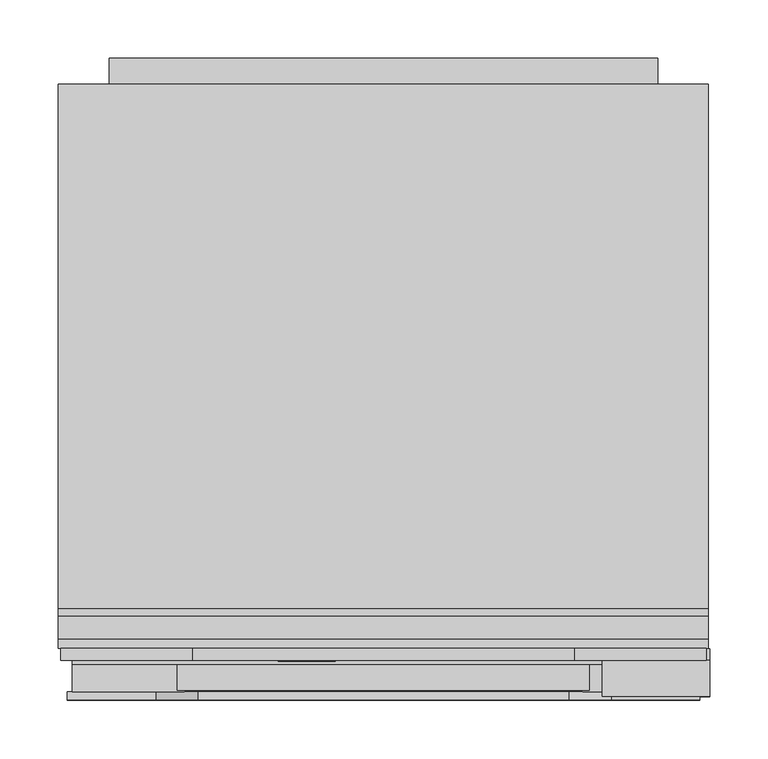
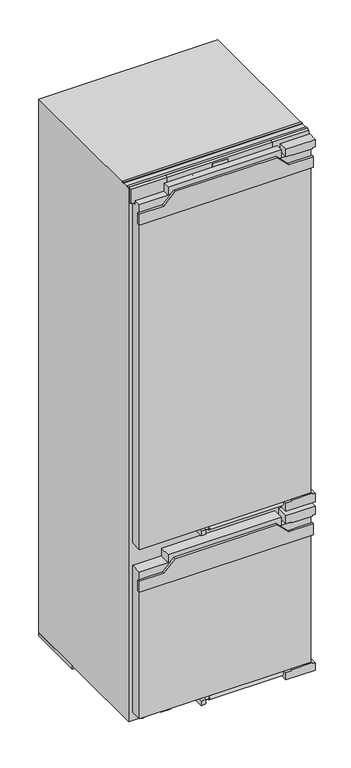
"""IFC4 building model written with IfcOpenShell, lengths in millimetres: proxy geometry, 11642650_EU1_KF7772B : 38777200_EU1_11642650_KF7772B."""

from ifc_helpers import new_model, si_unit, point, frame, frame_2d, origin, origin_with_axes, place, context, project, spatial, polyline, circle_curve, ellipse_curve, trimmed, segment, composite_curve, outline, extrude, faceted_brep, source, transform, mapped, element, save
from ifc_brep_helpers import plane_surface, cylinder_surface, revolved_surface, extruded_surface, advanced_brep


def specialty_equipment_3f4a5575(model_context):
    return source(origin(), model_context, "Body", "SolidModel", [
        advanced_brep(
        [(-46.64, 33.0, 1742.896), (-46.64, 33.0, 1743.704), (-41.288, 33.0, 1743.704), (-50.6, 33.0, 1743.704), (-48.4, 33.0, 1741.0), (-41.424, 33.0, 1742.896), (-43.84, 33.0, 1742.896), (-45.744, 33.0, 1742.0), (-46.64, 33.0, 1744.728), (-46.64, 33.0, 1745.6), (-45.272, 33.0, 1745.6), (-45.272, 33.0, 1744.728), (-46.64, 34.0, 1742.896), (-45.744, 34.0, 1742.0), (-43.84, 34.0, 1742.896), (-41.424, 34.0, 1742.896), (-48.4, 34.0, 1741.0), (-50.6, 34.0, 1743.704), (-41.288, 34.0, 1743.704), (-46.64, 34.0, 1743.704), (-46.64, 34.0, 1744.728), (-45.272, 34.0, 1744.728), (-45.272, 34.0, 1745.6), (-46.64, 34.0, 1745.6)],
        [
            (0, 1),
            (1, 2),
            (2, 3, ellipse_curve(frame((-45.944, 33.0, 1743.704), z_axis=(0.0, -1.0, 0.0), x_axis=(-1.0, 0.0, 0.0)), 4.656, 3.848)),
            (3, 4, circle_curve(frame((-47.5039564, 33.0, 1743.976), z_axis=(0.0, -1.0, 0.0), x_axis=(0.0, 0.0, -1.0)), 3.1079688)),
            (4, 5, circle_curve(frame((-46.0372064, 33.0, 1746.088), z_axis=(0.0, -1.0, 0.0), x_axis=(0.0, 0.0, -1.0)), 5.6098607)),
            (5, 6),
            (6, 7, circle_curve(frame((-45.3529412, 33.0, 1743.64), z_axis=(0.0, 1.0, 0.0), x_axis=(0.0, 0.0, -1.0)), 1.6859795)),
            (7, 0, circle_curve(frame((-45.744, 33.0, 1742.896), z_axis=(0.0, 1.0, 0.0), x_axis=(0.0, 0.0, -1.0)), 0.896)),
            (8, 9),
            (9, 10, circle_curve(frame((-45.956, 33.0, 1745.6), z_axis=(0.0, 1.0, 0.0), x_axis=(0.0, 0.0, -1.0)), 0.684)),
            (10, 11),
            (11, 8),
            (12, 13, circle_curve(frame((-45.744, 34.0, 1742.896), z_axis=(0.0, -1.0, 0.0), x_axis=(0.0, 0.0, -1.0)), 0.896)),
            (13, 14, circle_curve(frame((-45.3529412, 34.0, 1743.64), z_axis=(0.0, -1.0, 0.0), x_axis=(0.0, 0.0, -1.0)), 1.6859795)),
            (14, 15),
            (15, 16, circle_curve(frame((-46.0372064, 34.0, 1746.088), z_axis=(0.0, 1.0, 0.0), x_axis=(0.0, 0.0, -1.0)), 5.6098607)),
            (16, 17, circle_curve(frame((-47.5039564, 34.0, 1743.976), z_axis=(0.0, 1.0, 0.0), x_axis=(0.0, 0.0, -1.0)), 3.1079688)),
            (17, 18, ellipse_curve(frame((-45.944, 34.0, 1743.704), z_axis=(0.0, 1.0, 0.0), x_axis=(-1.0, 0.0, 0.0)), 4.656, 3.848)),
            (18, 19),
            (19, 12),
            (20, 21),
            (21, 22),
            (22, 23, circle_curve(frame((-45.956, 34.0, 1745.6), z_axis=(0.0, -1.0, 0.0), x_axis=(0.0, 0.0, -1.0)), 0.684)),
            (23, 20),
            (0, 12),
            (19, 1),
            (18, 2),
            (5, 15),
            (14, 6),
            (17, 3),
            (13, 7),
            (16, 4),
            (8, 20),
            (23, 9),
            (22, 10),
            (21, 11),
        ],
        [
            plane_surface(frame((-46.64, 33.0, 1743.704), z_axis=(0.0, -1.0, 0.0), x_axis=(0.0, 0.0, 1.0))),
            plane_surface(frame((-46.64, 34.0, 1743.704), z_axis=(0.0, 1.0, 0.0), x_axis=(0.0, 0.0, -1.0))),
            plane_surface(frame((-46.64, 33.0, 1742.896), z_axis=(1.0, 0.0, 0.0), x_axis=(0.0, 1.0, 0.0))),
            plane_surface(frame((-46.64, 33.0, 1743.704), z_axis=(0.0, 0.0, -1.0), x_axis=(0.0, 1.0, 0.0))),
            plane_surface(frame((-41.424, 33.0, 1742.896), z_axis=(0.0, 0.0, 1.0), x_axis=(0.0, 1.0, 0.0))),
            extruded_surface(trimmed(ellipse_curve(frame((-45.944, 35.0, 1743.704), z_axis=(0.0, -1.0, 0.0), x_axis=(-1.0, 0.0, 0.0)), 4.656, 3.848), [point((-41.288, 35.0, 1743.704))], [point((-50.6, 35.0, 1743.704))], True, "CARTESIAN"), (0.0, -1.0, 0.0), 1.0),
            revolved_surface(polyline([(-45.3529412, 34.0, 1741.9540205), (-45.3529412, 33.0, 1741.9540205)]), (-45.3529412, 34.0, 1743.64), (0.0, 1.0, 0.0)),
            revolved_surface(polyline([(-45.744, 34.0, 1742.0), (-45.744, 33.0, 1742.0)]), (-45.744, 34.0, 1742.896), (0.0, 1.0, 0.0)),
            cylinder_surface(frame((-47.5039564, 34.0, 1743.976), z_axis=(0.0, -1.0, 0.0), x_axis=(0.0, 0.0, -1.0)), 3.1079688),
            cylinder_surface(frame((-46.0372064, 34.0, 1746.088), z_axis=(0.0, -1.0, 0.0), x_axis=(0.0, 0.0, -1.0)), 5.6098607),
            plane_surface(frame((-46.64, 33.0, 1744.728), z_axis=(1.0, 0.0, 0.0), x_axis=(0.0, 1.0, 0.0))),
            revolved_surface(polyline([(-45.956, 34.0, 1744.916), (-45.956, 33.0, 1744.916)]), (-45.956, 34.0, 1745.6), (0.0, 1.0, 0.0)),
            plane_surface(frame((-45.272, 33.0, 1745.6), z_axis=(-1.0, 0.0, 0.0), x_axis=(0.0, 1.0, 0.0))),
            plane_surface(frame((-45.272, 33.0, 1744.728), z_axis=(0.0, 0.0, 1.0), x_axis=(0.0, 1.0, 0.0))),
        ],
        [
            (0, [[1, 2, 3, 4, 5, 6, 7, 8], [9, 10, 11, 12]]),
            (1, [[13, 14, 15, 16, 17, 18, 19, 20], [21, 22, 23, 24]]),
            (2, [[-1, 25, -20, 26]]),
            (3, [[-2, -26, -19, 27]]),
            (4, [[-6, 28, -15, 29]]),
            (5, [[-3, -27, -18, 30]]),
            (6, [[-7, -29, -14, 31]]),
            (7, [[-8, -31, -13, -25]]),
            (8, [[-4, -30, -17, 32]]),
            (9, [[-5, -32, -16, -28]]),
            (10, [[-9, 33, -24, 34]]),
            (11, [[-10, -34, -23, 35]]),
            (12, [[-11, -35, -22, 36]]),
            (13, [[-12, -36, -21, -33]]),
        ],
    ),
        advanced_brep(
        [(-63.336, 33.0, 1742.896), (-63.336, 33.0, 1743.704), (-57.984, 33.0, 1743.704), (-67.296, 33.0, 1743.704), (-65.096, 33.0, 1741.0), (-58.12, 33.0, 1742.896), (-60.536, 33.0, 1742.896), (-62.44, 33.0, 1742.0), (-63.336, 33.0, 1744.728), (-63.336, 33.0, 1745.6), (-61.968, 33.0, 1745.6), (-61.968, 33.0, 1744.728), (-63.336, 34.0, 1742.896), (-62.44, 34.0, 1742.0), (-60.536, 34.0, 1742.896), (-58.12, 34.0, 1742.896), (-65.096, 34.0, 1741.0), (-67.296, 34.0, 1743.704), (-57.984, 34.0, 1743.704), (-63.336, 34.0, 1743.704), (-63.336, 34.0, 1744.728), (-61.968, 34.0, 1744.728), (-61.968, 34.0, 1745.6), (-63.336, 34.0, 1745.6)],
        [
            (0, 1),
            (1, 2),
            (2, 3, ellipse_curve(frame((-62.64, 33.0, 1743.704), z_axis=(0.0, -1.0, 0.0), x_axis=(-1.0, 0.0, 0.0)), 4.656, 3.848)),
            (3, 4, circle_curve(frame((-64.1999564, 33.0, 1743.976), z_axis=(0.0, -1.0, 0.0), x_axis=(0.0, 0.0, -1.0)), 3.1079688)),
            (4, 5, circle_curve(frame((-62.7332064, 33.0, 1746.088), z_axis=(0.0, -1.0, 0.0), x_axis=(0.0, 0.0, -1.0)), 5.6098607)),
            (5, 6),
            (6, 7, circle_curve(frame((-62.0489412, 33.0, 1743.64), z_axis=(0.0, 1.0, 0.0), x_axis=(0.0, 0.0, -1.0)), 1.6859795)),
            (7, 0, circle_curve(frame((-62.44, 33.0, 1742.896), z_axis=(0.0, 1.0, 0.0), x_axis=(0.0, 0.0, -1.0)), 0.896)),
            (8, 9),
            (9, 10, circle_curve(frame((-62.652, 33.0, 1745.6), z_axis=(0.0, 1.0, 0.0), x_axis=(0.0, 0.0, -1.0)), 0.684)),
            (10, 11),
            (11, 8),
            (12, 13, circle_curve(frame((-62.44, 34.0, 1742.896), z_axis=(0.0, -1.0, 0.0), x_axis=(0.0, 0.0, -1.0)), 0.896)),
            (13, 14, circle_curve(frame((-62.0489412, 34.0, 1743.64), z_axis=(0.0, -1.0, 0.0), x_axis=(0.0, 0.0, -1.0)), 1.6859795)),
            (14, 15),
            (15, 16, circle_curve(frame((-62.7332064, 34.0, 1746.088), z_axis=(0.0, 1.0, 0.0), x_axis=(0.0, 0.0, -1.0)), 5.6098607)),
            (16, 17, circle_curve(frame((-64.1999564, 34.0, 1743.976), z_axis=(0.0, 1.0, 0.0), x_axis=(0.0, 0.0, -1.0)), 3.1079688)),
            (17, 18, ellipse_curve(frame((-62.64, 34.0, 1743.704), z_axis=(0.0, 1.0, 0.0), x_axis=(-1.0, 0.0, 0.0)), 4.656, 3.848)),
            (18, 19),
            (19, 12),
            (20, 21),
            (21, 22),
            (22, 23, circle_curve(frame((-62.652, 34.0, 1745.6), z_axis=(0.0, -1.0, 0.0), x_axis=(0.0, 0.0, -1.0)), 0.684)),
            (23, 20),
            (0, 12),
            (19, 1),
            (18, 2),
            (5, 15),
            (14, 6),
            (17, 3),
            (13, 7),
            (16, 4),
            (8, 20),
            (23, 9),
            (22, 10),
            (21, 11),
        ],
        [
            plane_surface(frame((-63.336, 33.0, 1743.704), z_axis=(0.0, -1.0, 0.0), x_axis=(0.0, 0.0, 1.0))),
            plane_surface(frame((-63.336, 34.0, 1743.704), z_axis=(0.0, 1.0, 0.0), x_axis=(0.0, 0.0, -1.0))),
            plane_surface(frame((-63.336, 33.0, 1742.896), z_axis=(1.0, 0.0, 0.0), x_axis=(0.0, 1.0, 0.0))),
            plane_surface(frame((-63.336, 33.0, 1743.704), z_axis=(0.0, 0.0, -1.0), x_axis=(0.0, 1.0, 0.0))),
            plane_surface(frame((-58.12, 33.0, 1742.896), z_axis=(0.0, 0.0, 1.0), x_axis=(0.0, 1.0, 0.0))),
            extruded_surface(trimmed(ellipse_curve(frame((-62.64, 35.0, 1743.704), z_axis=(0.0, -1.0, 0.0), x_axis=(-1.0, 0.0, 0.0)), 4.656, 3.848), [point((-57.984, 35.0, 1743.704))], [point((-67.296, 35.0, 1743.704))], True, "CARTESIAN"), (0.0, -1.0, 0.0), 1.0),
            revolved_surface(polyline([(-62.0489412, 34.0, 1741.9540205), (-62.0489412, 33.0, 1741.9540205)]), (-62.0489412, 34.0, 1743.64), (0.0, 1.0, 0.0)),
            revolved_surface(polyline([(-62.44, 34.0, 1742.0), (-62.44, 33.0, 1742.0)]), (-62.44, 34.0, 1742.896), (0.0, 1.0, 0.0)),
            cylinder_surface(frame((-64.1999564, 34.0, 1743.976), z_axis=(0.0, -1.0, 0.0), x_axis=(0.0, 0.0, -1.0)), 3.1079688),
            cylinder_surface(frame((-62.7332064, 34.0, 1746.088), z_axis=(0.0, -1.0, 0.0), x_axis=(0.0, 0.0, -1.0)), 5.6098607),
            plane_surface(frame((-63.336, 33.0, 1744.728), z_axis=(1.0, 0.0, 0.0), x_axis=(0.0, 1.0, 0.0))),
            revolved_surface(polyline([(-62.652, 34.0, 1744.916), (-62.652, 33.0, 1744.916)]), (-62.652, 34.0, 1745.6), (0.0, 1.0, 0.0)),
            plane_surface(frame((-61.968, 33.0, 1745.6), z_axis=(-1.0, 0.0, 0.0), x_axis=(0.0, 1.0, 0.0))),
            plane_surface(frame((-61.968, 33.0, 1744.728), z_axis=(0.0, 0.0, 1.0), x_axis=(0.0, 1.0, 0.0))),
        ],
        [
            (0, [[1, 2, 3, 4, 5, 6, 7, 8], [9, 10, 11, 12]]),
            (1, [[13, 14, 15, 16, 17, 18, 19, 20], [21, 22, 23, 24]]),
            (2, [[-1, 25, -20, 26]]),
            (3, [[-2, -26, -19, 27]]),
            (4, [[-6, 28, -15, 29]]),
            (5, [[-3, -27, -18, 30]]),
            (6, [[-7, -29, -14, 31]]),
            (7, [[-8, -31, -13, -25]]),
            (8, [[-4, -30, -17, 32]]),
            (9, [[-5, -32, -16, -28]]),
            (10, [[-9, 33, -24, 34]]),
            (11, [[-10, -34, -23, 35]]),
            (12, [[-11, -35, -22, 36]]),
            (13, [[-12, -36, -21, -33]]),
        ],
    ),
        extrude(outline(polyline([(1748.528, -72.08), (1747.232, -71.472), (1748.496, -68.76), (1749.792, -69.36), (1748.528, -72.08)])), frame((0.0, 33.0, 0.0), z_axis=(0.0, 1.0, 0.0), x_axis=(0.0, 0.0, 1.0)), (0.0, 0.0, 1.0), 1.0),
        extrude(outline(polyline([(1747.056, -74.056), (1745.624, -74.056), (1745.624, -73.104), (1742.344, -73.104), (1742.344, -74.056), (1741.0, -74.056), (1741.0, -67.744), (1742.344, -67.744), (1742.344, -68.672), (1747.056, -68.672), (1747.056, -74.056)])), frame((0.0, 33.0, 0.0), z_axis=(0.0, 1.0, 0.0), x_axis=(0.0, 0.0, 1.0)), (0.0, 0.0, 1.0), 1.0),
        extrude(outline(polyline([(1747.696, -57.536), (1747.696, -56.576), (1742.344, -56.576), (1742.344, -57.536), (1741.0, -57.536), (1741.0, -51.048), (1742.344, -51.048), (1742.344, -52.032), (1749.0, -52.032), (1749.0, -57.536), (1747.696, -57.536)])), frame((0.0, 33.0, 0.0), z_axis=(0.0, 1.0, 0.0), x_axis=(0.0, 0.0, 1.0)), (0.0, 0.0, 1.0), 1.0),
        extrude(outline(polyline([(1747.696, -90.0), (1747.696, -89.032), (1742.344, -89.032), (1742.344, -90.0), (1741.0, -90.0), (1741.0, -86.48), (1742.344, -86.48), (1742.344, -87.44), (1745.7471247, -87.44), (1741.0, -83.864), (1745.8152223, -80.272), (1742.344, -80.272), (1742.344, -81.256), (1741.0, -81.256), (1741.0, -74.872), (1742.344, -74.872), (1742.344, -75.888), (1747.696, -75.888), (1747.696, -74.872), (1749.0, -74.872), (1749.0, -79.744), (1746.0, -82.08), (1749.0, -84.424), (1749.0, -90.0), (1747.696, -90.0)])), frame((0.0, 33.0, 0.0), z_axis=(0.0, 1.0, 0.0), x_axis=(0.0, 0.0, 1.0)), (0.0, 0.0, 1.0), 1.0),
        extrude(outline(polyline([(461.0, 271.0), (497.0, 271.0), (497.0, 195.0), (533.0, 159.0), (533.0, -159.0), (497.0, -195.0), (497.0, -271.0), (461.0, -271.0), (461.0, 271.0)])), frame((0.0, 0.0, 0.0), z_axis=(0.0, 1.0, 0.0), x_axis=(0.0, 0.0, 1.0)), (0.0, 0.0, 1.0), 7.0),
        extrude(outline(polyline([(1670.0, 271.0), (1706.0, 271.0), (1706.0, 195.0), (1742.0, 159.0), (1742.0, -159.0), (1706.0, -195.0), (1706.0, -271.0), (1670.0, -271.0), (1670.0, 271.0)])), frame((0.0, 0.0, 0.0), z_axis=(0.0, 1.0, 0.0), x_axis=(0.0, 0.0, 1.0)), (0.0, 0.0, 1.0), 7.0),
        extrude(outline(composite_curve([segment(trimmed(circle_curve(frame_2d((-65.5, 25.0)), 6.5), [point((-72.0, 25.0))], [point((-59.0, 25.0))], False, "CARTESIAN"), True, "CONTINUOUS"), segment(trimmed(circle_curve(frame_2d((-65.5, 25.0)), 6.5), [point((-59.0, 25.0))], [point((-72.0, 25.0))], False, "CARTESIAN"), True, "CONTINUOUS")], self_intersect=False)), frame((0.0, 0.0, 588.0), z_axis=(0.0, 0.0, 1.0), x_axis=(1.0, 0.0, 0.0)), (0.0, 0.0, 1.0), 8.0),
        extrude(outline(polyline([(-74.0, 42.0), (-59.0, 42.0), (-59.0, 8.0), (-74.0, 8.0), (-74.0, 42.0)])), frame((0.0, 0.0, 573.3963013), z_axis=(0.0, 0.0, 1.0), x_axis=(1.0, 0.0, 0.0)), (0.0, 0.0, 1.0), 14.6036987),
        extrude(outline(composite_curve([segment(trimmed(circle_curve(frame_2d((-65.5, 25.0)), 6.5), [point((-72.0, 25.0))], [point((-59.0, 25.0))], False, "CARTESIAN"), True, "CONTINUOUS"), segment(trimmed(circle_curve(frame_2d((-65.5, 25.0)), 6.5), [point((-59.0, 25.0))], [point((-72.0, 25.0))], False, "CARTESIAN"), True, "CONTINUOUS")], self_intersect=False)), frame((0.0, 0.0, 29.0), z_axis=(0.0, 0.0, 1.0), x_axis=(1.0, 0.0, 0.0)), (0.0, 0.0, 1.0), 9.0),
        extrude(outline(polyline([(-74.0, 42.0), (-59.0, 42.0), (-59.0, 8.0), (-74.0, 8.0), (-74.0, 42.0)])), frame((0.0, 0.0, 14.3963013), z_axis=(0.0, 0.0, 1.0), x_axis=(1.0, 0.0, 0.0)), (0.0, 0.0, 1.0), 14.6036987),
        extrude(outline(polyline([(592.0, 205.5), (592.0, 187.5), (565.0, 187.5), (565.0, 279.5), (592.0, 279.5), (592.0, 269.5), (596.0, 269.5), (596.0, 205.5), (592.0, 205.5)])), frame((0.0, 3.0, 0.0), z_axis=(0.0, 1.0, 0.0), x_axis=(0.0, 0.0, 1.0)), (0.0, 0.0, 1.0), 41.0),
        extrude(outline(polyline([(176.5, 8.0), (-176.5, 8.0), (-176.5, 30.0), (176.5, 30.0), (176.5, 8.0)])), frame((0.0, 0.0, 1731.0), z_axis=(0.0, 0.0, 1.0), x_axis=(1.0, 0.0, 0.0)), (0.0, 0.0, 1.0), 25.0),
        extrude(outline(polyline([(7.0, 596.0), (7.0, 1731.0), (30.0, 1731.0), (30.0, 1715.0), (44.0, 1715.0), (44.0, 596.0), (7.0, 596.0)])), frame((-266.5, 0.0, 0.0), z_axis=(1.0, 0.0, 0.0), x_axis=(0.0, 1.0, 0.0)), (0.0, 0.0, 1.0), 533.0),
        extrude(outline(polyline([(-176.5, 44.0), (176.5, 44.0), (176.5, 8.0), (-176.5, 8.0), (-176.5, 44.0)])), frame((0.0, 0.0, 521.0), z_axis=(0.0, 0.0, 1.0), x_axis=(1.0, 0.0, 0.0)), (0.0, 0.0, 1.0), 25.0),
        extrude(outline(polyline([(550.0, 279.5), (550.0, 187.5), (524.0, 187.5), (524.0, 205.5), (521.0, 205.5), (521.0, 269.5), (524.0, 269.5), (524.0, 279.5), (550.0, 279.5)])), frame((0.0, 3.0, 0.0), z_axis=(0.0, 1.0, 0.0), x_axis=(0.0, 0.0, 1.0)), (0.0, 0.0, 1.0), 41.0),
        extrude(outline(polyline([(34.0, 205.5), (34.0, 187.5), (10.0, 187.5), (10.0, 279.5), (34.0, 279.5), (34.0, 269.5), (38.0, 269.5), (38.0, 205.5), (34.0, 205.5)])), frame((0.0, 3.0, 0.0), z_axis=(0.0, 1.0, 0.0), x_axis=(0.0, 0.0, 1.0)), (0.0, 0.0, 1.0), 41.0),
        extrude(outline(polyline([(1733.0, 269.5), (1733.0, 279.5), (1757.0, 279.5), (1757.0, 187.5), (1733.0, 187.5), (1733.0, 205.5), (1731.0, 205.5), (1731.0, 269.5), (1733.0, 269.5)])), frame((0.0, 3.0, 0.0), z_axis=(0.0, 1.0, 0.0), x_axis=(0.0, 0.0, 1.0)), (0.0, 0.0, 1.0), 31.0),
        extrude(outline(polyline([(-266.5, 44.0), (266.5, 44.0), (266.5, 7.0), (-266.5, 7.0), (-266.5, 44.0)])), frame((0.0, 0.0, 38.0), z_axis=(0.0, 0.0, 1.0), x_axis=(1.0, 0.0, 0.0)), (0.0, 0.0, 1.0), 483.0),
        extrude(outline(composite_curve([segment(trimmed(circle_curve(frame_2d((25.0, 582.0)), 6.0), [point((25.0, 576.0))], [point((25.0, 588.0))], False, "CARTESIAN"), True, "CONTINUOUS"), segment(trimmed(circle_curve(frame_2d((25.0, 582.0)), 6.0), [point((25.0, 588.0))], [point((25.0, 576.0))], False, "CARTESIAN"), True, "CONTINUOUS")], self_intersect=False)), frame((-59.0, 0.0, 0.0), z_axis=(1.0, 0.0, 0.0), x_axis=(0.0, 1.0, 0.0)), (0.0, 0.0, 1.0), 16.0),
        extrude(outline(composite_curve([segment(trimmed(circle_curve(frame_2d((25.0, 582.0)), 9.0), [point((25.0, 573.0))], [point((25.0, 591.0))], False, "CARTESIAN"), True, "CONTINUOUS"), segment(trimmed(circle_curve(frame_2d((25.0, 582.0)), 9.0), [point((25.0, 591.0))], [point((25.0, 573.0))], False, "CARTESIAN"), True, "CONTINUOUS")], self_intersect=False)), frame((-43.0, 0.0, 0.0), z_axis=(1.0, 0.0, 0.0), x_axis=(0.0, 1.0, 0.0)), (0.0, 0.0, 1.0), 230.5),
        extrude(outline(composite_curve([segment(trimmed(circle_curve(frame_2d((25.0, 23.0)), 9.0), [point((25.0, 14.0))], [point((25.0, 32.0))], False, "CARTESIAN"), True, "CONTINUOUS"), segment(trimmed(circle_curve(frame_2d((25.0, 23.0)), 9.0), [point((25.0, 32.0))], [point((25.0, 14.0))], False, "CARTESIAN"), True, "CONTINUOUS")], self_intersect=False)), frame((-43.0, 0.0, 0.0), z_axis=(1.0, 0.0, 0.0), x_axis=(0.0, 1.0, 0.0)), (0.0, 0.0, 1.0), 230.5),
        extrude(outline(composite_curve([segment(trimmed(circle_curve(frame_2d((25.0, 23.0)), 6.0), [point((25.0, 17.0))], [point((25.0, 29.0))], False, "CARTESIAN"), True, "CONTINUOUS"), segment(trimmed(circle_curve(frame_2d((25.0, 23.0)), 6.0), [point((25.0, 29.0))], [point((25.0, 17.0))], False, "CARTESIAN"), True, "CONTINUOUS")], self_intersect=False)), frame((-59.0, 0.0, 0.0), z_axis=(1.0, 0.0, 0.0), x_axis=(0.0, 1.0, 0.0)), (0.0, 0.0, 1.0), 16.0),
        faceted_brep([(163.5, 34.0, 1770.0), (-163.5, 34.0, 1770.0), (-163.5, 34.0, 1721.0), (163.5, 34.0, 1721.0), (24.5, 34.0, 1765.0), (24.5, 34.0, 1727.0), (-24.5, 34.0, 1727.0), (-24.5, 34.0, 1765.0), (163.5, 44.0, 1770.0), (163.5, 44.0, 1721.0), (-163.5, 44.0, 1721.0), (-163.5, 44.0, 1770.0), (24.5, 35.0, 1765.0), (-24.5, 35.0, 1765.0), (-24.5, 35.0, 1727.0), (24.5, 35.0, 1727.0)], [[[0, 1, 2, 3], [4, 5, 6, 7]], [[8, 9, 10, 11]], [[0, 3, 9, 8]], [[3, 2, 10, 9]], [[2, 1, 11, 10]], [[1, 0, 8, 11]], [[12, 13, 14, 15]], [[12, 15, 5, 4]], [[15, 14, 6, 5]], [[14, 13, 7, 6]], [[13, 12, 4, 7]]]),
        extrude(outline(polyline([(163.5, 44.0), (276.5, 44.0), (276.5, 34.0), (163.5, 34.0), (163.5, 44.0)])), frame((0.0, 0.0, 1721.0), z_axis=(0.0, 0.0, 1.0), x_axis=(1.0, 0.0, 0.0)), (0.0, 0.0, 1.0), 49.0),
        extrude(outline(polyline([(-276.5, 44.0), (-163.5, 44.0), (-163.5, 34.0), (-276.5, 34.0), (-276.5, 44.0)])), frame((0.0, 0.0, 1721.0), z_axis=(0.0, 0.0, 1.0), x_axis=(1.0, 0.0, 0.0)), (0.0, 0.0, 1.0), 49.0),
        extrude(outline(polyline([(-24.5, 35.0), (24.5, 35.0), (24.5, 34.0), (-24.5, 34.0), (-24.5, 35.0)])), frame((0.0, 0.0, 1727.0), z_axis=(0.0, 0.0, 1.0), x_axis=(1.0, 0.0, 0.0)), (0.0, 0.0, 1.0), 38.0),
        extrude(outline(polyline([(1647.0, -235.0), (27.0, -235.0), (27.0, 235.0), (130.0, 235.0), (130.0, 180.0), (160.0, 180.0), (160.0, 235.0), (1647.0, 235.0), (1647.0, -235.0)])), frame((0.0, 528.0, 0.0), z_axis=(0.0, 1.0, 0.0), x_axis=(0.0, 0.0, 1.0)), (0.0, 0.0, 1.0), 22.0),
        extrude(outline(polyline([(-144.929185, 52.0), (-174.0, 52.0), (-194.6983363, 348.0), (-165.6275213, 348.0), (-144.929185, 52.0)])), origin_with_axes(), (0.0, 0.0, 1.0), 10.0),
        extrude(outline(polyline([(144.929185, 52.0), (165.6275213, 348.0), (194.6983363, 348.0), (174.0, 52.0), (144.929185, 52.0)])), origin_with_axes(), (0.0, 0.0, 1.0), 10.0),
        extrude(outline(polyline([(541.4384039, 149.874164), (548.6647626, 149.874164), (548.6647626, 139.824714), (541.2826236, 139.824714), (541.2826236, 141.0836119), (547.4056247, 141.0836119), (547.4056247, 144.3750411), (541.7614845, 144.3750411), (541.7614845, 145.6249589), (547.4056247, 145.6249589), (547.4056247, 148.6148402), (541.4384039, 148.6148402), (541.4384039, 149.874164)])), frame((193.5, 0.0, 0.0), z_axis=(1.0, 0.0, 0.0), x_axis=(0.0, 1.0, 0.0)), (0.0, 0.0, 1.0), 1.0),
        extrude(outline(polyline([(538.1383052, 149.8716162), (539.399354, 149.8716162), (539.399354, 139.824714), (533.1225656, 139.824714), (533.1225656, 141.0927041), (538.1383052, 141.0927041), (538.1383052, 149.8716162)])), frame((193.5, 0.0, 0.0), z_axis=(1.0, 0.0, 0.0), x_axis=(0.0, 1.0, 0.0)), (0.0, 0.0, 1.0), 1.0),
        advanced_brep(
        [(232.0, 528.0, 145.0), (217.0, 528.0, 145.0), (232.0, 549.5, 145.0), (217.0, 534.5, 145.0), (194.5, 549.5, 145.0), (194.5, 534.5, 145.0)],
        [
            (0, 1, circle_curve(frame((224.5, 528.0, 145.0), z_axis=(0.0, -1.0, 0.0), x_axis=(-1.0, 0.0, 0.0)), 7.5)),
            (1, 0, circle_curve(frame((224.5, 528.0, 145.0), z_axis=(0.0, -1.0, 0.0), x_axis=(-1.0, 0.0, 0.0)), 7.5)),
            (0, 2),
            (2, 3, ellipse_curve(frame((224.5, 542.0, 145.0), z_axis=(0.7071067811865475, -0.7071067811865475, 0.0), x_axis=(-0.7071067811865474, -0.7071067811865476, 0.0)), 10.6066017, 7.5)),
            (3, 1),
            (3, 2, ellipse_curve(frame((224.5, 542.0, 145.0), z_axis=(0.7071067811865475, -0.7071067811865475, 0.0), x_axis=(-0.7071067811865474, -0.7071067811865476, 0.0)), 10.6066017, 7.5)),
            (4, 5, circle_curve(frame((194.5, 542.0, 145.0), z_axis=(-1.0, 0.0, 0.0), x_axis=(0.0, -1.0, 0.0)), 7.5)),
            (5, 4, circle_curve(frame((194.5, 542.0, 145.0), z_axis=(-1.0, 0.0, 0.0), x_axis=(0.0, -1.0, 0.0)), 7.5)),
            (2, 4),
            (5, 3),
        ],
        [
            plane_surface(frame((224.5, 528.0, 145.0), z_axis=(0.0, -1.0, 0.0), x_axis=(0.0, 0.0, 1.0))),
            cylinder_surface(frame((224.5, 528.0, 145.0), z_axis=(0.0, -1.0, 0.0), x_axis=(-1.0, 0.0, 0.0)), 7.5),
            plane_surface(frame((194.5, 542.0, 145.0), z_axis=(-1.0, 0.0, 0.0), x_axis=(0.0, 0.0, 1.0))),
            cylinder_surface(frame((224.5, 542.0, 145.0), z_axis=(1.0, 0.0, 0.0), x_axis=(0.0, -1.0, 0.0)), 7.5),
        ],
        [
            (0, [[1, 2]]),
            (1, [[-1, 3, 4, 5]]),
            (1, [[-2, -5, 6, -3]]),
            (2, [[7, 8]]),
            (3, [[-4, 9, -8, 10]]),
            (3, [[-6, -10, -7, -9]]),
        ],
    ),
        extrude(outline(polyline([(-34.0, 44.0), (34.0, 44.0), (34.0, 35.0), (-34.0, 35.0), (-34.0, 44.0)])), frame((0.0, 0.0, 13.0), z_axis=(0.0, 0.0, 1.0), x_axis=(1.0, 0.0, 0.0)), (0.0, 0.0, 1.0), 19.0),
        extrude(outline(polyline([(278.5, 52.0), (278.5, 44.0), (-278.5, 44.0), (-278.5, 52.0), (278.5, 52.0)])), frame((0.0, 0.0, 1767.0), z_axis=(0.0, 0.0, 1.0), x_axis=(1.0, 0.0, 0.0)), (0.0, 0.0, 1.0), 3.0),
        extrude(outline(polyline([(278.5, 78.0), (278.5, 72.0), (-278.5, 72.0), (-278.5, 78.0), (278.5, 78.0)])), frame((0.0, 0.0, 1767.0), z_axis=(0.0, 0.0, 1.0), x_axis=(1.0, 0.0, 0.0)), (0.0, 0.0, 1.0), 3.0),
        extrude(outline(polyline([(-242.5, 44.0), (-242.5, 490.0), (242.5, 490.0), (242.5, 44.0), (-242.5, 44.0)])), frame((0.0, 0.0, 996.0), z_axis=(0.0, 0.0, 1.0), x_axis=(1.0, 0.0, 0.0)), (0.0, 0.0, 1.0), 3.0),
        extrude(outline(polyline([(-217.5, 312.0), (-217.5, 451.0), (217.5, 451.0), (217.5, 312.0), (-217.5, 312.0)])), frame((0.0, 0.0, 93.0), z_axis=(0.0, 0.0, 1.0), x_axis=(1.0, 0.0, 0.0)), (0.0, 0.0, 1.0), 200.0),
        extrude(outline(composite_curve([segment(trimmed(circle_curve(frame_2d((228.0, 64.0)), 11.0), [point((239.0, 64.0))], [point((217.0, 64.0))], False, "CARTESIAN"), True, "CONTINUOUS"), segment(trimmed(circle_curve(frame_2d((228.0, 64.0)), 11.0), [point((217.0, 64.0))], [point((239.0, 64.0))], False, "CARTESIAN"), True, "CONTINUOUS")], self_intersect=False)), origin_with_axes(), (0.0, 0.0, 1.0), 10.0),
        extrude(outline(composite_curve([segment(trimmed(circle_curve(frame_2d((-228.0, 64.0)), 11.0), [point((-217.0, 64.0))], [point((-239.0, 64.0))], False, "CARTESIAN"), True, "CONTINUOUS"), segment(trimmed(circle_curve(frame_2d((-228.0, 64.0)), 11.0), [point((-239.0, 64.0))], [point((-217.0, 64.0))], False, "CARTESIAN"), True, "CONTINUOUS")], self_intersect=False)), origin_with_axes(), (0.0, 0.0, 1.0), 10.0),
        extrude(outline(polyline([(278.5, 528.0), (278.5, 348.0), (-278.5, 348.0), (-278.5, 528.0), (278.5, 528.0)])), origin_with_axes(), (0.0, 0.0, 1.0), 10.0),
        faceted_brep([(278.5, 528.0, 1767.0), (-278.5, 528.0, 1767.0), (-278.5, 44.0, 1767.0), (278.5, 44.0, 1767.0), (278.5, 528.0, 10.0), (278.5, 44.0, 10.0), (-278.5, 44.0, 10.0), (-278.5, 528.0, 10.0), (242.5, 44.0, 1692.0), (242.5, 44.0, 619.0), (-242.5, 44.0, 619.0), (-242.5, 44.0, 1692.0), (217.5, 44.0, 473.0), (217.5, 44.0, 93.0), (-217.5, 44.0, 93.0), (-217.5, 44.0, 473.0), (242.5, 490.0, 1692.0), (-242.5, 490.0, 1692.0), (-242.5, 490.0, 619.0), (242.5, 490.0, 619.0), (217.5, 451.0, 473.0), (217.5, 451.0, 93.0), (-217.5, 451.0, 473.0), (-217.5, 451.0, 93.0)], [[[0, 1, 2, 3]], [[4, 5, 6, 7]], [[1, 0, 4, 7]], [[2, 1, 7, 6]], [[3, 2, 6, 5], [8, 9, 10, 11], [12, 13, 14, 15]], [[0, 3, 5, 4]], [[16, 17, 18, 19]], [[16, 19, 9, 8]], [[19, 18, 10, 9]], [[18, 17, 11, 10]], [[17, 16, 8, 11]], [[20, 21, 13, 12]], [[22, 15, 14, 23]], [[21, 20, 22, 23]], [[13, 21, 23, 14]], [[20, 12, 15, 22]]]),
    ])


if __name__ == "__main__":
    model = new_model("IFC4")
    model_context = context("Model", 3, world=origin())
    ifc_project = project(units=[si_unit("LENGTHUNIT", "METRE", prefix="MILLI")], contexts=[model_context])
    site = spatial("IfcSite", under=ifc_project)
    building = spatial("IfcBuilding", under=site)
    placement = place(None, origin())
    specialty_equipment_shape = specialty_equipment_3f4a5575(model_context)
    element("IfcBuildingElementProxy", 1, Name="11642650_EU1_KF7772B : 38777200_EU1_11642650_KF7772B", ObjectType="11642650_EU1_KF7772B : 38777200_EU1_11642650_KF7772B", at=placement, inside=building, context=model_context, shape_type="MappedRepresentation", body=[
        mapped(specialty_equipment_shape, transform((0.0, 0.0, 0.0), x_axis=(1.0, 0.0, 0.0), y_axis=(0.0, 1.0, 0.0), z_axis=(0.0, 0.0, 1.0))),
    ])
    save(model, "model.ifc")
